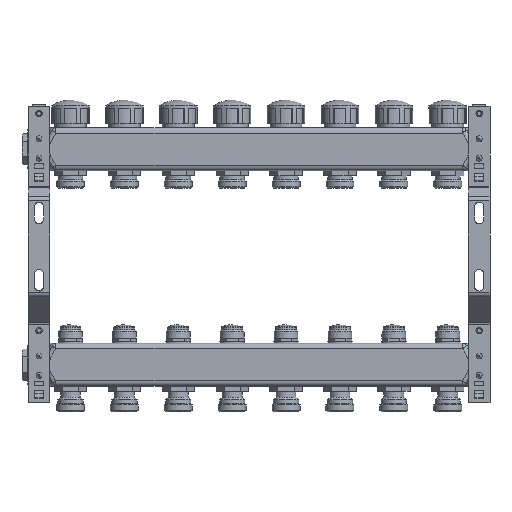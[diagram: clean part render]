
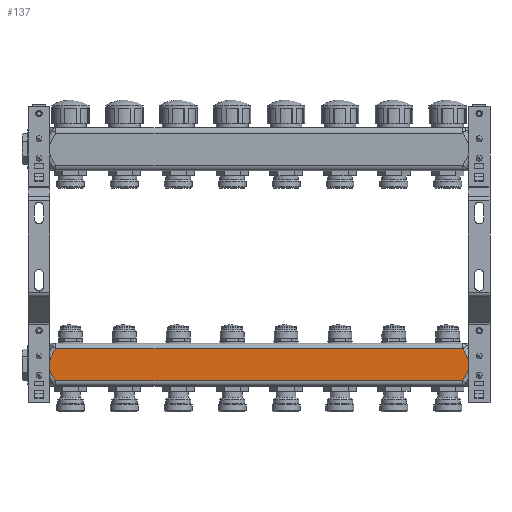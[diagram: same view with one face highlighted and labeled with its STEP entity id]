
A CAD part, front view. The second image highlights one B-rep face of the part: STEP entity #137.
In plain terms, the highlighted planar face has unit normal (0, -1, 0).
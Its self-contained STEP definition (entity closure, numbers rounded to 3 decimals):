
#137=ADVANCED_FACE('',(#2576),#2578,.T.);
#2576=FACE_BOUND('',#2577,.T.);
#2577=EDGE_LOOP('',(#13771,#13772,#13773,#13774));
#2578=PLANE('',#2579);
#2579=AXIS2_PLACEMENT_3D('',#2580,#2581,#2582);
#2580=CARTESIAN_POINT('',(1.7,46.5,-219.65));
#2581=DIRECTION('',(0.,-1.,0.));
#2582=DIRECTION('',(0.,0.,-1.));
#13771=ORIENTED_EDGE('',*,*,#19727,.T.);
#13772=ORIENTED_EDGE('',*,*,#19728,.F.);
#13773=ORIENTED_EDGE('',*,*,#19432,.T.);
#13774=ORIENTED_EDGE('',*,*,#19729,.T.);
#19432=EDGE_CURVE('',#22634,#22632,#22635,.T.);
#19727=EDGE_CURVE('',#23135,#23136,#23137,.T.);
#19728=EDGE_CURVE('',#22634,#23136,#23138,.T.);
#19729=EDGE_CURVE('',#22632,#23135,#23139,.T.);
#22632=VERTEX_POINT('',#29888);
#22634=VERTEX_POINT('',#29893);
#22635=B_SPLINE_CURVE_WITH_KNOTS('',3,
(#29894,#29895,#29896,#29897,#29898,#29899,#29900,#29901,#29902,#29903,#29904,#29905,
#29906,#29907,#29908,#29909,#29910,#29911,#29912,#29913,#29914,#29915,#29916,#29917),
.UNSPECIFIED.,.F.,.F.,
(4,1,1,1,1,1,1,1,1,1,1,1,1,1,1,1,1,1,1,1,1,4),
(0.,0.066,0.123,0.171,0.221,0.271,
0.322,0.369,0.413,0.45,0.485,
0.521,0.557,0.597,0.64,0.687,
0.738,0.789,0.841,0.891,0.945,
1.),
.UNSPECIFIED.);
#23135=VERTEX_POINT('',#32320);
#23136=VERTEX_POINT('',#32321);
#23137=B_SPLINE_CURVE_WITH_KNOTS('',3,
(#32322,#32323,#32324,#32325,#32326,#32327,#32328,#32329,#32330,#32331,#32332,#32333,
#32334,#32335,#32336,#32337,#32338,#32339,#32340,#32341,#32342,#32343,#32344,#32345),
.UNSPECIFIED.,.F.,.F.,
(4,1,1,1,1,1,1,1,1,1,1,1,1,1,1,1,1,1,1,1,1,4),
(0.,0.066,0.123,0.171,0.221,0.271,
0.322,0.369,0.413,0.45,0.485,
0.521,0.557,0.597,0.64,0.687,
0.738,0.789,0.841,0.891,0.945,
1.),
.UNSPECIFIED.);
#23138=LINE('',#32346,#32347);
#23139=LINE('',#32349,#32350);
#29888=CARTESIAN_POINT('',(25.634,46.5,-254.65));
#29893=CARTESIAN_POINT('',(25.634,46.5,-224.65));
#29894=CARTESIAN_POINT('',(25.634,46.5,-224.65));
#29895=CARTESIAN_POINT('',(25.196,46.5,-225.269));
#29896=CARTESIAN_POINT('',(24.401,46.5,-226.43));
#29897=CARTESIAN_POINT('',(23.362,46.5,-228.064));
#29898=CARTESIAN_POINT('',(22.485,46.5,-229.562));
#29899=CARTESIAN_POINT('',(21.717,46.5,-231.008));
#29900=CARTESIAN_POINT('',(21.012,46.5,-232.516));
#29901=CARTESIAN_POINT('',(20.421,46.5,-234.022));
#29902=CARTESIAN_POINT('',(19.968,46.5,-235.487));
#29903=CARTESIAN_POINT('',(19.669,46.5,-236.817));
#29904=CARTESIAN_POINT('',(19.494,46.5,-238.033));
#29905=CARTESIAN_POINT('',(19.414,46.5,-239.176));
#29906=CARTESIAN_POINT('',(19.421,46.5,-240.315));
#29907=CARTESIAN_POINT('',(19.518,46.5,-241.495));
#29908=CARTESIAN_POINT('',(19.72,46.5,-242.746));
#29909=CARTESIAN_POINT('',(20.047,46.5,-244.096));
#29910=CARTESIAN_POINT('',(20.52,46.5,-245.553));
#29911=CARTESIAN_POINT('',(21.134,46.5,-247.064));
#29912=CARTESIAN_POINT('',(21.87,46.5,-248.596));
#29913=CARTESIAN_POINT('',(22.685,46.5,-250.094));
#29914=CARTESIAN_POINT('',(23.586,46.5,-251.598));
#29915=CARTESIAN_POINT('',(24.565,46.5,-253.112));
#29916=CARTESIAN_POINT('',(25.27,46.5,-254.135));
#29917=CARTESIAN_POINT('',(25.634,46.5,-254.65));
#32320=CARTESIAN_POINT('',(402.766,46.5,-254.65));
#32321=CARTESIAN_POINT('',(402.766,46.5,-224.65));
#32322=CARTESIAN_POINT('',(402.766,46.5,-254.65));
#32323=CARTESIAN_POINT('',(403.204,46.5,-254.031));
#32324=CARTESIAN_POINT('',(403.999,46.5,-252.87));
#32325=CARTESIAN_POINT('',(405.038,46.5,-251.236));
#32326=CARTESIAN_POINT('',(405.915,46.5,-249.738));
#32327=CARTESIAN_POINT('',(406.683,46.5,-248.292));
#32328=CARTESIAN_POINT('',(407.388,46.5,-246.784));
#32329=CARTESIAN_POINT('',(407.979,46.5,-245.278));
#32330=CARTESIAN_POINT('',(408.432,46.5,-243.813));
#32331=CARTESIAN_POINT('',(408.731,46.5,-242.483));
#32332=CARTESIAN_POINT('',(408.906,46.5,-241.267));
#32333=CARTESIAN_POINT('',(408.986,46.5,-240.124));
#32334=CARTESIAN_POINT('',(408.979,46.5,-238.985));
#32335=CARTESIAN_POINT('',(408.882,46.5,-237.805));
#32336=CARTESIAN_POINT('',(408.68,46.5,-236.554));
#32337=CARTESIAN_POINT('',(408.353,46.5,-235.204));
#32338=CARTESIAN_POINT('',(407.88,46.5,-233.747));
#32339=CARTESIAN_POINT('',(407.266,46.5,-232.236));
#32340=CARTESIAN_POINT('',(406.53,46.5,-230.704));
#32341=CARTESIAN_POINT('',(405.715,46.5,-229.206));
#32342=CARTESIAN_POINT('',(404.814,46.5,-227.702));
#32343=CARTESIAN_POINT('',(403.835,46.5,-226.188));
#32344=CARTESIAN_POINT('',(403.13,46.5,-225.165));
#32345=CARTESIAN_POINT('',(402.766,46.5,-224.65));
#32346=CARTESIAN_POINT('',(25.634,46.5,-224.65));
#32347=VECTOR('',#32348,1.);
#32348=DIRECTION('',(1.,0.,0.));
#32349=CARTESIAN_POINT('',(25.634,46.5,-254.65));
#32350=VECTOR('',#32351,1.);
#32351=DIRECTION('',(1.,0.,0.));
